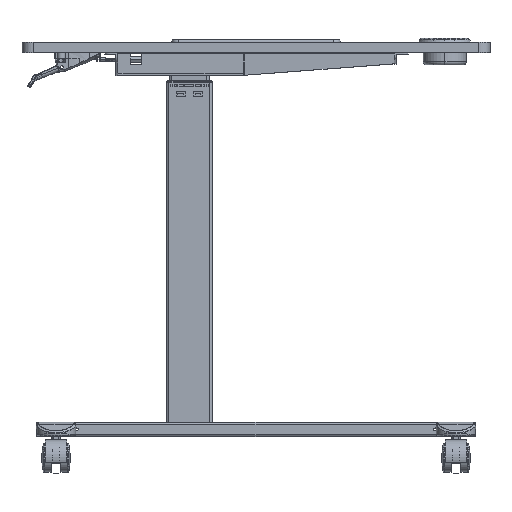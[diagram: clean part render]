
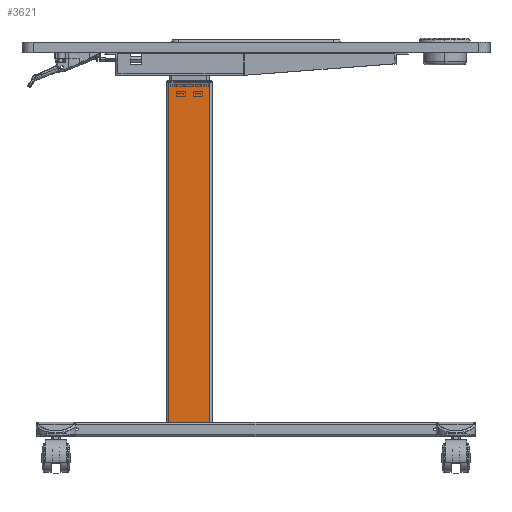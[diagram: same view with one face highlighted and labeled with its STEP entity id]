
A CAD part, top view. The second image highlights one B-rep face of the part: STEP entity #3621.
In plain terms, the highlighted planar face has unit normal (0, 0, 1) as drawn and (0, -1, 0) by its records, which use the part's own axes.
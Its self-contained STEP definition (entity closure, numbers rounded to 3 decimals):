
#3079=CARTESIAN_POINT('Vertex',(-36.,-25.,-42.)) ;
#3121=CARTESIAN_POINT('Vertex',(36.,-25.,-42.)) ;
#3124=CARTESIAN_POINT('Line Origine',(0.,-25.,-42.)) ;
#3287=CARTESIAN_POINT('Vertex',(-36.,-25.,580.)) ;
#3290=CARTESIAN_POINT('Line Origine',(0.,-25.,580.)) ;
#3294=CARTESIAN_POINT('Vertex',(36.,-25.,580.)) ;
#3496=CARTESIAN_POINT('Line Origine',(-36.,-25.,290.)) ;
#3598=CARTESIAN_POINT('Line Origine',(36.,-25.,290.)) ;
#3610=CARTESIAN_POINT('Axis2P3D Location',(37.5,-25.,0.)) ;
#3125=DIRECTION('Vector Direction',(1.,0.,0.)) ;
#3291=DIRECTION('Vector Direction',(1.,0.,0.)) ;
#3497=DIRECTION('Vector Direction',(0.,0.,1.)) ;
#3599=DIRECTION('Vector Direction',(0.,0.,1.)) ;
#3611=DIRECTION('Axis2P3D Direction',(0.,1.,0.)) ;
#3612=DIRECTION('Axis2P3D XDirection',(-1.,0.,0.)) ;
#3613=AXIS2_PLACEMENT_3D('Plane Axis2P3D',#3610,#3611,#3612) ;
#3616=ORIENTED_EDGE('',*,*,#3500,.F.) ;
#3617=ORIENTED_EDGE('',*,*,#3128,.T.) ;
#3618=ORIENTED_EDGE('',*,*,#3602,.F.) ;
#3619=ORIENTED_EDGE('',*,*,#3296,.F.) ;
#3126=VECTOR('Line Direction',#3125,1.) ;
#3292=VECTOR('Line Direction',#3291,1.) ;
#3498=VECTOR('Line Direction',#3497,1.) ;
#3600=VECTOR('Line Direction',#3599,1.) ;
#3621=ADVANCED_FACE('\X2\8F935165\X0\1',(#3620),#3614,.F.) ;
#3128=EDGE_CURVE('',#3080,#3122,#3127,.T.) ;
#3296=EDGE_CURVE('',#3288,#3295,#3293,.T.) ;
#3500=EDGE_CURVE('',#3080,#3288,#3499,.T.) ;
#3602=EDGE_CURVE('',#3295,#3122,#3601,.F.) ;
#3615=EDGE_LOOP('',(#3616,#3617,#3618,#3619)) ;
#3620=FACE_OUTER_BOUND('',#3615,.T.) ;
#3127=LINE('Line',#3124,#3126) ;
#3293=LINE('Line',#3290,#3292) ;
#3499=LINE('Line',#3496,#3498) ;
#3601=LINE('Line',#3598,#3600) ;
#3614=PLANE('',#3613) ;
#3080=VERTEX_POINT('',#3079) ;
#3122=VERTEX_POINT('',#3121) ;
#3288=VERTEX_POINT('',#3287) ;
#3295=VERTEX_POINT('',#3294) ;
